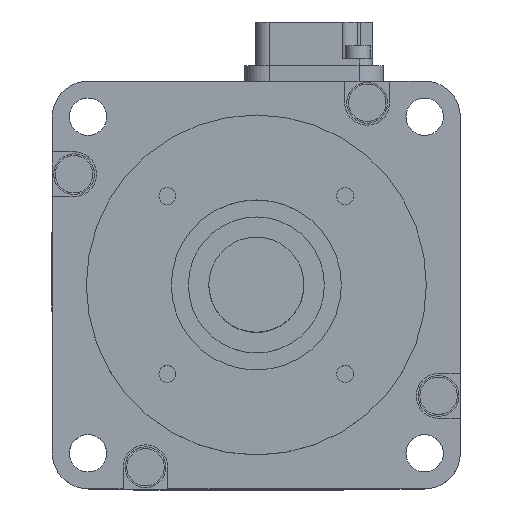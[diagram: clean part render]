
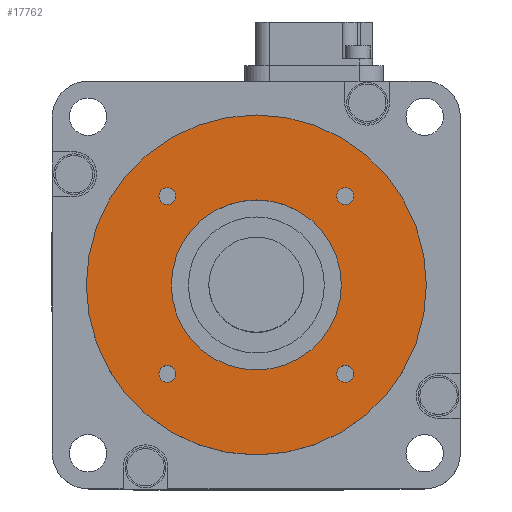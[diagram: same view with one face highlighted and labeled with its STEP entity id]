
A CAD part, top view. The second image highlights one B-rep face of the part: STEP entity #17762.
In plain terms, the highlighted planar face has unit normal (0, 0, 1).
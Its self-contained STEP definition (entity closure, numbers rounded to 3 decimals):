
#4793=CARTESIAN_POINT('',(0.,0.,44.25));
#4794=DIRECTION('',(0.,0.,1.));
#4795=DIRECTION('',(1.,0.,0.));
#4796=AXIS2_PLACEMENT_3D('',#4793,#4794,#4795);
#4798=CARTESIAN_POINT('',(0.,0.,44.25));
#4799=DIRECTION('',(0.,0.,1.));
#4800=DIRECTION('',(-1.,0.,0.));
#4801=AXIS2_PLACEMENT_3D('',#4798,#4799,#4800);
#4803=CARTESIAN_POINT('',(0.,0.,44.25));
#4804=DIRECTION('',(0.,0.,-1.));
#4805=DIRECTION('',(1.,0.,0.));
#4806=AXIS2_PLACEMENT_3D('',#4803,#4804,#4805);
#4808=CARTESIAN_POINT('',(0.,0.,44.25));
#4809=DIRECTION('',(0.,0.,-1.));
#4810=DIRECTION('',(-1.,0.,0.));
#4811=AXIS2_PLACEMENT_3D('',#4808,#4809,#4810);
#4813=CARTESIAN_POINT('',(13.081,13.081,44.25));
#4814=DIRECTION('',(0.,0.,-1.));
#4815=DIRECTION('',(-1.,0.,0.));
#4816=AXIS2_PLACEMENT_3D('',#4813,#4814,#4815);
#4818=CARTESIAN_POINT('',(13.081,13.081,44.25));
#4819=DIRECTION('',(0.,0.,-1.));
#4820=DIRECTION('',(1.,0.,0.));
#4821=AXIS2_PLACEMENT_3D('',#4818,#4819,#4820);
#4823=CARTESIAN_POINT('',(-13.081,13.081,44.25));
#4824=DIRECTION('',(0.,0.,-1.));
#4825=DIRECTION('',(0.,-1.,0.));
#4826=AXIS2_PLACEMENT_3D('',#4823,#4824,#4825);
#4828=CARTESIAN_POINT('',(-13.081,13.081,44.25));
#4829=DIRECTION('',(0.,0.,-1.));
#4830=DIRECTION('',(0.,1.,0.));
#4831=AXIS2_PLACEMENT_3D('',#4828,#4829,#4830);
#4833=CARTESIAN_POINT('',(-13.081,-13.081,44.25));
#4834=DIRECTION('',(0.,0.,-1.));
#4835=DIRECTION('',(1.,0.,0.));
#4836=AXIS2_PLACEMENT_3D('',#4833,#4834,#4835);
#4838=CARTESIAN_POINT('',(-13.081,-13.081,44.25));
#4839=DIRECTION('',(0.,0.,-1.));
#4840=DIRECTION('',(-1.,0.,0.));
#4841=AXIS2_PLACEMENT_3D('',#4838,#4839,#4840);
#4843=CARTESIAN_POINT('',(13.081,-13.081,44.25));
#4844=DIRECTION('',(0.,0.,-1.));
#4845=DIRECTION('',(0.,1.,0.));
#4846=AXIS2_PLACEMENT_3D('',#4843,#4844,#4845);
#4848=CARTESIAN_POINT('',(13.081,-13.081,44.25));
#4849=DIRECTION('',(0.,0.,-1.));
#4850=DIRECTION('',(0.,-1.,0.));
#4851=AXIS2_PLACEMENT_3D('',#4848,#4849,#4850);
#5123=CARTESIAN_POINT('',(-25.,0.,44.25));
#5124=VERTEX_POINT('',#5123);
#5125=CARTESIAN_POINT('',(25.,0.,44.25));
#5126=VERTEX_POINT('',#5125);
#5128=CARTESIAN_POINT('',(12.5,0.,44.25));
#5130=VERTEX_POINT('',#5128);
#5133=CARTESIAN_POINT('',(-12.5,0.,44.25));
#5134=VERTEX_POINT('',#5133);
#5155=CARTESIAN_POINT('',(14.331,13.081,44.25));
#5156=VERTEX_POINT('',#5155);
#5157=CARTESIAN_POINT('',(11.831,13.081,44.25));
#5158=VERTEX_POINT('',#5157);
#5171=CARTESIAN_POINT('',(-13.081,14.331,44.25));
#5172=VERTEX_POINT('',#5171);
#5173=CARTESIAN_POINT('',(-13.081,11.831,44.25));
#5174=VERTEX_POINT('',#5173);
#5175=CARTESIAN_POINT('',(-14.331,-13.081,44.25));
#5176=VERTEX_POINT('',#5175);
#5177=CARTESIAN_POINT('',(-11.831,-13.081,44.25));
#5178=VERTEX_POINT('',#5177);
#5179=CARTESIAN_POINT('',(13.081,-14.331,44.25));
#5180=VERTEX_POINT('',#5179);
#5181=CARTESIAN_POINT('',(13.081,-11.831,44.25));
#5182=VERTEX_POINT('',#5181);
#17722=CARTESIAN_POINT('',(0.,0.,44.25));
#17723=DIRECTION('',(0.,0.,1.));
#17724=DIRECTION('',(-1.,0.,0.));
#17725=AXIS2_PLACEMENT_3D('',#17722,#17723,#17724);
#17726=PLANE('',#17725);
#17727=ORIENTED_EDGE('',*,*,#17700,.F.);
#17729=ORIENTED_EDGE('',*,*,#17728,.F.);
#17730=EDGE_LOOP('',(#17727,#17729));
#17731=FACE_OUTER_BOUND('',#17730,.F.);
#17733=ORIENTED_EDGE('',*,*,#17732,.F.);
#17735=ORIENTED_EDGE('',*,*,#17734,.F.);
#17736=EDGE_LOOP('',(#17733,#17735));
#17737=FACE_BOUND('',#17736,.F.);
#17739=ORIENTED_EDGE('',*,*,#17738,.F.);
#17741=ORIENTED_EDGE('',*,*,#17740,.F.);
#17742=EDGE_LOOP('',(#17739,#17741));
#17743=FACE_BOUND('',#17742,.F.);
#17745=ORIENTED_EDGE('',*,*,#17744,.F.);
#17747=ORIENTED_EDGE('',*,*,#17746,.F.);
#17748=EDGE_LOOP('',(#17745,#17747));
#17749=FACE_BOUND('',#17748,.F.);
#17751=ORIENTED_EDGE('',*,*,#17750,.F.);
#17753=ORIENTED_EDGE('',*,*,#17752,.F.);
#17754=EDGE_LOOP('',(#17751,#17753));
#17755=FACE_BOUND('',#17754,.F.);
#17757=ORIENTED_EDGE('',*,*,#17756,.F.);
#17759=ORIENTED_EDGE('',*,*,#17758,.F.);
#17760=EDGE_LOOP('',(#17757,#17759));
#17761=FACE_BOUND('',#17760,.F.);
#17762=ADVANCED_FACE('',(#17731,#17737,#17743,#17749,#17755,#17761),#17726,.T.);
#4797=CIRCLE('',#4796,25.);
#4802=CIRCLE('',#4801,25.);
#4807=CIRCLE('',#4806,12.5);
#4812=CIRCLE('',#4811,12.5);
#4817=CIRCLE('',#4816,1.25);
#4822=CIRCLE('',#4821,1.25);
#4827=CIRCLE('',#4826,1.25);
#4832=CIRCLE('',#4831,1.25);
#4837=CIRCLE('',#4836,1.25);
#4842=CIRCLE('',#4841,1.25);
#4847=CIRCLE('',#4846,1.25);
#4852=CIRCLE('',#4851,1.25);
#17700=EDGE_CURVE('',#5126,#5124,#4797,.T.);
#17728=EDGE_CURVE('',#5124,#5126,#4802,.T.);
#17732=EDGE_CURVE('',#5130,#5134,#4807,.T.);
#17734=EDGE_CURVE('',#5134,#5130,#4812,.T.);
#17738=EDGE_CURVE('',#5158,#5156,#4817,.T.);
#17740=EDGE_CURVE('',#5156,#5158,#4822,.T.);
#17744=EDGE_CURVE('',#5174,#5172,#4827,.T.);
#17746=EDGE_CURVE('',#5172,#5174,#4832,.T.);
#17750=EDGE_CURVE('',#5178,#5176,#4837,.T.);
#17752=EDGE_CURVE('',#5176,#5178,#4842,.T.);
#17756=EDGE_CURVE('',#5182,#5180,#4847,.T.);
#17758=EDGE_CURVE('',#5180,#5182,#4852,.T.);
